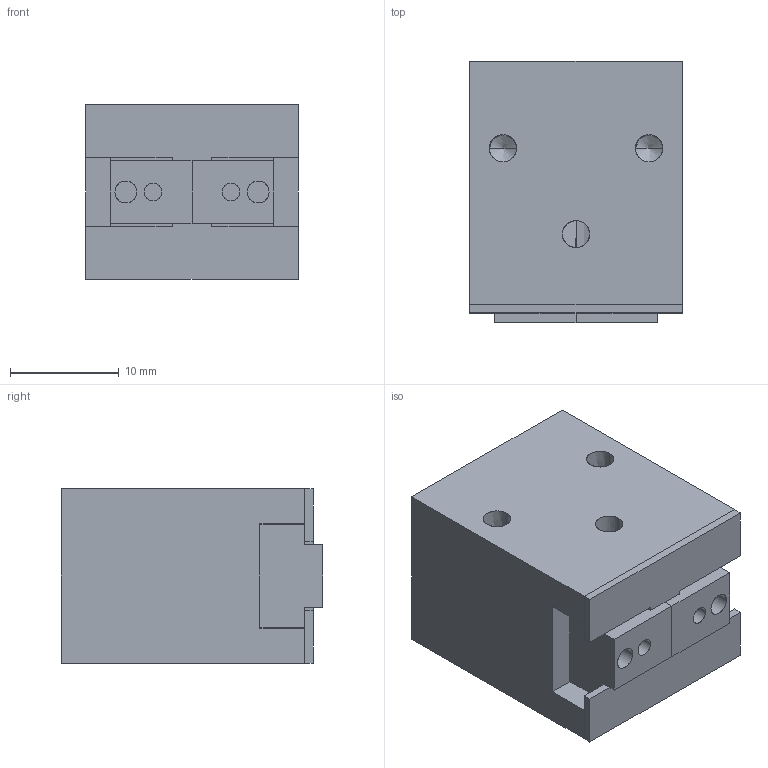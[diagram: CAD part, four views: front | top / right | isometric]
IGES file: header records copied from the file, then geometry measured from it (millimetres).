
Start section: SolidWorks IGES file using analytic representation for surfaces
Global section: file name: C:\Users\jmkuhnes\Pictures\PERSONAL\AGPM-1\agpm-1\AGPM-1 CLOSED in MM.IGS; native system: SolidWorks 2013; preprocessor: SolidWorks 2013; author: jmkuhnes; date: 141031.110813; units: millimetre
Bounding box: 19.51 x 24 x 16 mm (x, y, z)
Surface area: 4143.7 mm2 (no closed solid volume)
Topology: 0 solids, 0 shells, 112 faces, 1332 edges, 1316 vertices
Faces by surface type: revolution 58, bspline 54
